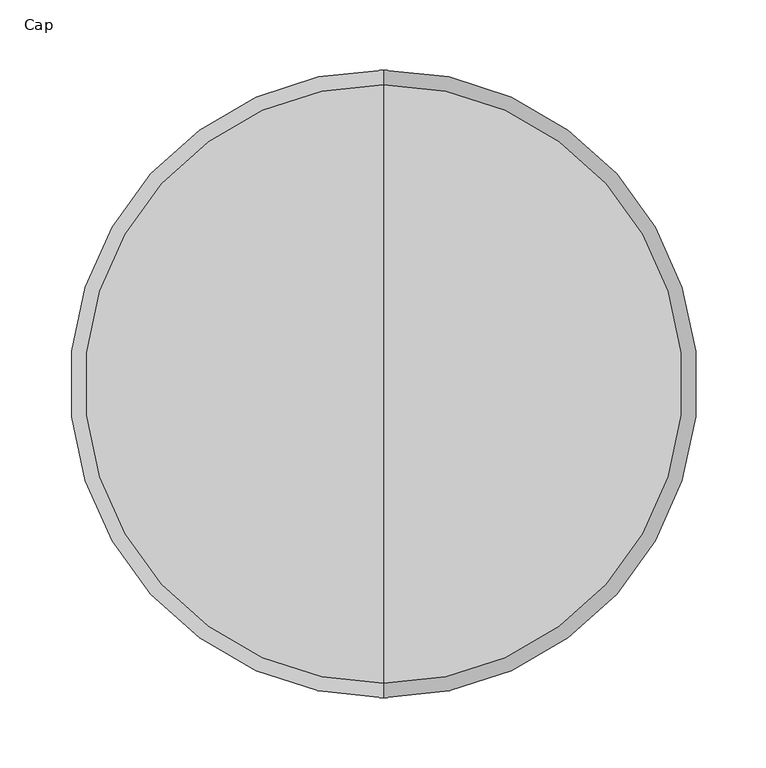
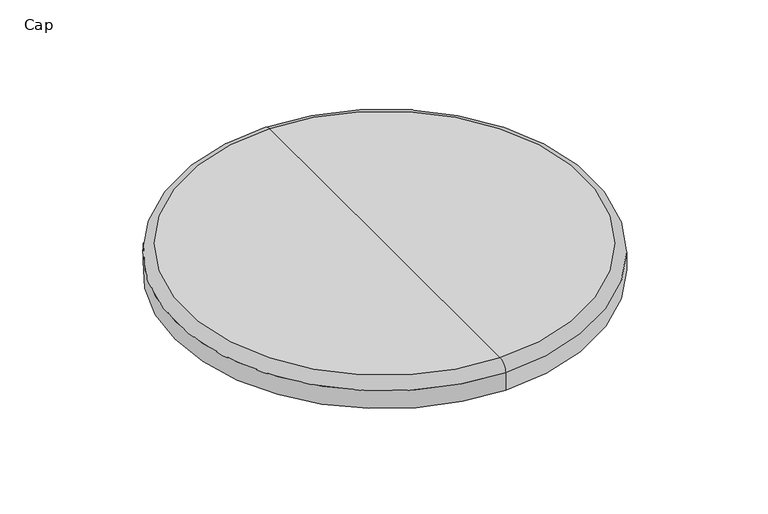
"""IFC4 building model written with IfcOpenShell, lengths in millimetres: furniture geometry, Steelcase Turnstone - Buoy - Seating - Cap : Cap."""

from ifc_helpers import new_model, si_unit, point, frame, origin, place, context, project, spatial, circle_curve, ellipse_curve, trimmed, source, transform, mapped, element, save
from ifc_brep_helpers import plane_surface, cylinder_surface, revolved_surface, advanced_brep


def cap_f8d5f5fa(model_context):
    return source(origin(), model_context, "Body", "AdvancedBrep", [
        advanced_brep(
        [(0.0, -223.7462265, 405.4592992), (0.0, 223.7462265, 405.4592992), (0.0, 0.0, 405.4592992), (0.0, -223.7462265, 425.3088538), (0.0, 223.7462265, 425.3088538), (0.0, -213.4450779, 435.6100024), (0.0, 213.4450779, 435.6100024), (0.0, 0.0, 435.6100024)],
        [
            (0, 1, circle_curve(frame((0.0, 0.0, 405.4592992), z_axis=(0.0, 0.0, -1.0), x_axis=(0.0, 1.0, 0.0)), 223.7462265)),
            (1, 2),
            (2, 0),
            (1, 0, circle_curve(frame((0.0, 0.0, 405.4592992), z_axis=(0.0, 0.0, -1.0), x_axis=(0.0, 1.0, 0.0)), 223.7462265)),
            (3, 4, circle_curve(frame((0.0, 0.0, 425.3088538), z_axis=(0.0, 0.0, -1.0), x_axis=(0.0, 1.0, 0.0)), 223.7462265)),
            (4, 1),
            (0, 3),
            (4, 3, circle_curve(frame((0.0, 0.0, 425.3088538), z_axis=(0.0, 0.0, -1.0), x_axis=(0.0, 1.0, 0.0)), 223.7462265)),
            (5, 6, circle_curve(frame((0.0, 0.0, 435.6100024), z_axis=(0.0, 0.0, -1.0), x_axis=(0.0, 1.0, 0.0)), 213.4450779)),
            (6, 4, circle_curve(frame((0.0, 213.4450779, 425.3088538), z_axis=(-1.0, 0.0, 0.0), x_axis=(0.0, -1.0, 0.0)), 10.3011486)),
            (3, 5, circle_curve(frame((0.0, -213.4450779, 425.3088538), z_axis=(-1.0, 0.0, 0.0), x_axis=(0.0, 1.0, 0.0)), 10.3011486)),
            (6, 5, circle_curve(frame((0.0, 0.0, 435.6100024), z_axis=(0.0, 0.0, -1.0), x_axis=(0.0, 1.0, 0.0)), 213.4450779)),
            (7, 6),
            (5, 7),
        ],
        [
            plane_surface(frame((0.0, 0.0, 405.4592992), z_axis=(0.0, 0.0, -1.0), x_axis=(0.0, 1.0, 0.0))),
            cylinder_surface(frame((0.0, 0.0, 435.6100024), z_axis=(0.0, 0.0, 1.0), x_axis=(0.0, 1.0, 0.0)), 223.7462265),
            revolved_surface(trimmed(ellipse_curve(frame((0.0, 213.4450779, 425.3088538), z_axis=(1.0, 0.0, 0.0), x_axis=(0.0, -1.0, 0.0)), 10.3011486, 10.3011486), [point((0.0, 223.7462265, 425.3088538))], [point((0.0, 213.4450779, 435.6100024))], True, "CARTESIAN"), (0.0, 0.0, 435.6100024), (0.0, 0.0, 1.0)),
            plane_surface(frame((0.0, 0.0, 435.6100024), z_axis=(0.0, 0.0, 1.0), x_axis=(0.0, 1.0, 0.0))),
        ],
        [
            (0, [[1, 2, 3]]),
            (0, [[4, -3, -2]]),
            (1, [[5, 6, -1, 7]]),
            (1, [[8, -7, -4, -6]]),
            (2, [[9, 10, -5, 11]]),
            (2, [[12, -11, -8, -10]]),
            (3, [[13, -9, 14]]),
            (3, [[-14, -12, -13]]),
        ],
    ),
    ])


if __name__ == "__main__":
    model = new_model("IFC4")
    model_context = context("Model", 3, world=origin())
    ifc_project = project(units=[si_unit("LENGTHUNIT", "METRE", prefix="MILLI")], contexts=[model_context])
    site = spatial("IfcSite", under=ifc_project)
    building = spatial("IfcBuilding", under=site)
    placement = place(None, origin())
    cap_shape = cap_f8d5f5fa(model_context)
    element("IfcFurniture", 1, ObjectType="Steelcase Turnstone - Buoy - Seating - Cap : Cap", at=placement, inside=building, context=model_context, shape_type="MappedRepresentation", body=[
        mapped(cap_shape, transform((0.0, 0.0, 0.0), x_axis=(1.0, 0.0, 0.0), y_axis=(0.0, 1.0, 0.0), z_axis=(0.0, 0.0, 1.0))),
    ])
    save(model, "model.ifc")
